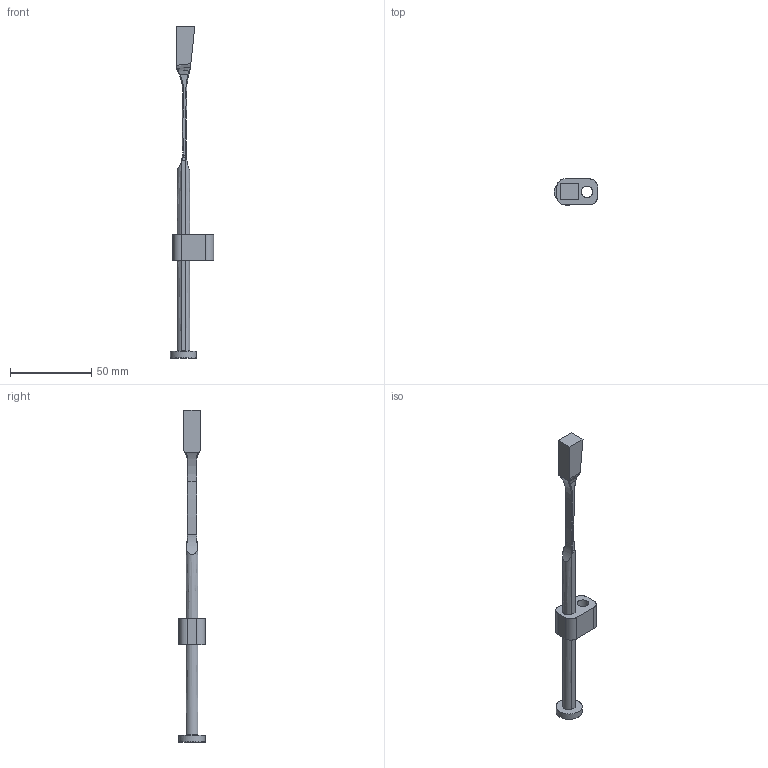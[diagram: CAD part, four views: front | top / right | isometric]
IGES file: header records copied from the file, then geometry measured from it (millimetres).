
Start section: VISI Layer Mapping Iges    VISI  0      LAYER0  1      WARNINGS
Global section: file name: G:\Produktkommunikation\Support\CD-Online-Katalog\3D Daten Produkte\E3200\E3200_10_11,5_200.igs; native system: VISI 20.0; preprocessor: 2.0; author: NUS; organization: Unknown; date: 20130529.090041; units: millimetre
Bounding box: 26.5 x 16 x 204 mm (x, y, z)
Surface area: 8997.5 mm2 (no closed solid volume)
Topology: 0 solids, 0 shells, 92 faces, 733 edges, 716 vertices
Faces by surface type: bspline 92
